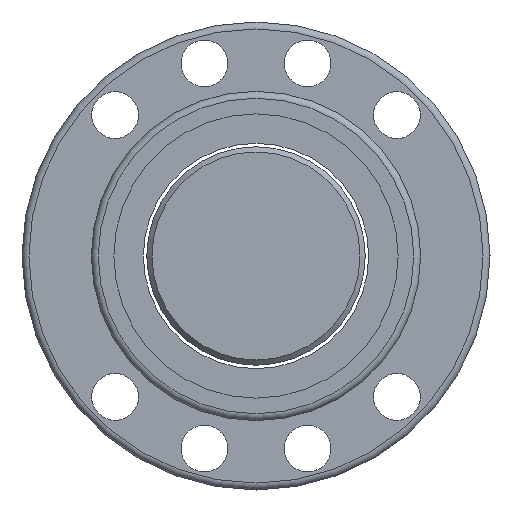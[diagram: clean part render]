
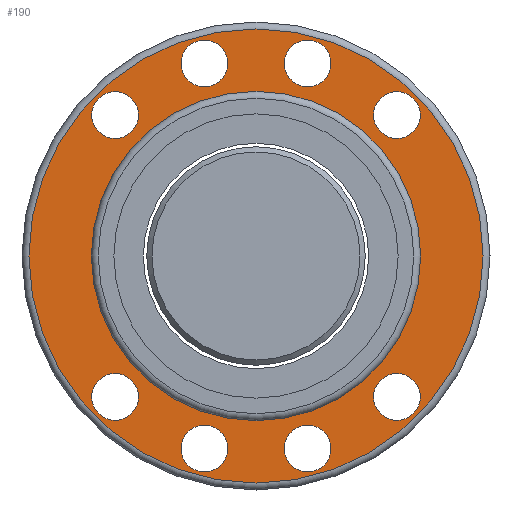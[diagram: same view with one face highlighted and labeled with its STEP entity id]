
A CAD part, left-side view. The second image highlights one B-rep face of the part: STEP entity #190.
In plain terms, the highlighted planar face has unit normal (-1, 0, 0).
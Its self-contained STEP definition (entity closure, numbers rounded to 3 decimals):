
#120=PLANE('',#740);
#137=FACE_OUTER_BOUND('',#366,.T.);
#190=ADVANCED_FACE('',(#255,#256,#257,#258,#259,#260,#261,#262,#263,#137),
#120,.T.);
#255=FACE_BOUND('',#357,.T.);
#256=FACE_BOUND('',#358,.T.);
#257=FACE_BOUND('',#359,.T.);
#258=FACE_BOUND('',#360,.T.);
#259=FACE_BOUND('',#361,.T.);
#260=FACE_BOUND('',#362,.T.);
#261=FACE_BOUND('',#363,.T.);
#262=FACE_BOUND('',#364,.T.);
#263=FACE_BOUND('',#365,.T.);
#357=EDGE_LOOP('',(#463));
#358=EDGE_LOOP('',(#464));
#359=EDGE_LOOP('',(#465));
#360=EDGE_LOOP('',(#466));
#361=EDGE_LOOP('',(#467));
#362=EDGE_LOOP('',(#468));
#363=EDGE_LOOP('',(#469));
#364=EDGE_LOOP('',(#470));
#365=EDGE_LOOP('',(#471));
#366=EDGE_LOOP('',(#472));
#463=ORIENTED_EDGE('',*,*,#596,.F.);
#464=ORIENTED_EDGE('',*,*,#597,.F.);
#465=ORIENTED_EDGE('',*,*,#598,.F.);
#466=ORIENTED_EDGE('',*,*,#599,.F.);
#467=ORIENTED_EDGE('',*,*,#600,.F.);
#468=ORIENTED_EDGE('',*,*,#601,.F.);
#469=ORIENTED_EDGE('',*,*,#602,.F.);
#470=ORIENTED_EDGE('',*,*,#603,.F.);
#471=ORIENTED_EDGE('',*,*,#604,.T.);
#472=ORIENTED_EDGE('',*,*,#605,.F.);
#543=VERTEX_POINT('',#1057);
#544=VERTEX_POINT('',#1059);
#545=VERTEX_POINT('',#1061);
#546=VERTEX_POINT('',#1063);
#547=VERTEX_POINT('',#1065);
#548=VERTEX_POINT('',#1067);
#549=VERTEX_POINT('',#1069);
#550=VERTEX_POINT('',#1071);
#551=VERTEX_POINT('',#1073);
#552=VERTEX_POINT('',#1075);
#596=EDGE_CURVE('',#543,#543,#649,.T.);
#597=EDGE_CURVE('',#544,#544,#650,.T.);
#598=EDGE_CURVE('',#545,#545,#651,.T.);
#599=EDGE_CURVE('',#546,#546,#652,.T.);
#600=EDGE_CURVE('',#547,#547,#653,.T.);
#601=EDGE_CURVE('',#548,#548,#654,.T.);
#602=EDGE_CURVE('',#549,#549,#655,.T.);
#603=EDGE_CURVE('',#550,#550,#656,.T.);
#604=EDGE_CURVE('',#551,#551,#657,.T.);
#605=EDGE_CURVE('',#552,#552,#658,.T.);
#649=CIRCLE('',#730,6.75);
#650=CIRCLE('',#731,6.75);
#651=CIRCLE('',#732,6.75);
#652=CIRCLE('',#733,6.75);
#653=CIRCLE('',#734,6.75);
#654=CIRCLE('',#735,6.75);
#655=CIRCLE('',#736,6.75);
#656=CIRCLE('',#737,6.75);
#657=CIRCLE('',#738,47.5);
#658=CIRCLE('',#739,65.5);
#730=AXIS2_PLACEMENT_3D('',#1056,#884,#885);
#731=AXIS2_PLACEMENT_3D('',#1058,#886,#887);
#732=AXIS2_PLACEMENT_3D('',#1060,#888,#889);
#733=AXIS2_PLACEMENT_3D('',#1062,#890,#891);
#734=AXIS2_PLACEMENT_3D('',#1064,#892,#893);
#735=AXIS2_PLACEMENT_3D('',#1066,#894,#895);
#736=AXIS2_PLACEMENT_3D('',#1068,#896,#897);
#737=AXIS2_PLACEMENT_3D('',#1070,#898,#899);
#738=AXIS2_PLACEMENT_3D('',#1072,#900,#901);
#739=AXIS2_PLACEMENT_3D('',#1074,#902,#903);
#740=AXIS2_PLACEMENT_3D('',#1076,#904,#905);
#884=DIRECTION('',(-1.,0.,0.));
#885=DIRECTION('',(0.,0.,1.));
#886=DIRECTION('',(-1.,0.,0.));
#887=DIRECTION('',(0.,0.,1.));
#888=DIRECTION('',(-1.,0.,0.));
#889=DIRECTION('',(0.,0.,1.));
#890=DIRECTION('',(-1.,0.,0.));
#891=DIRECTION('',(0.,0.,1.));
#892=DIRECTION('',(-1.,0.,0.));
#893=DIRECTION('',(0.,0.,1.));
#894=DIRECTION('',(-1.,0.,0.));
#895=DIRECTION('',(0.,0.,1.));
#896=DIRECTION('',(-1.,0.,0.));
#897=DIRECTION('',(0.,0.,1.));
#898=DIRECTION('',(-1.,0.,0.));
#899=DIRECTION('',(0.,0.,1.));
#900=DIRECTION('',(1.,0.,0.));
#901=DIRECTION('',(0.,0.,-1.));
#902=DIRECTION('',(1.,0.,0.));
#903=DIRECTION('',(0.,0.,-1.));
#904=DIRECTION('',(-1.,0.,0.));
#905=DIRECTION('',(0.,0.,1.));
#1056=CARTESIAN_POINT('',(-40.,40.66,-40.66));
#1057=CARTESIAN_POINT('',(-40.,40.66,-33.91));
#1058=CARTESIAN_POINT('',(-40.,14.883,-55.543));
#1059=CARTESIAN_POINT('',(-40.,14.883,-48.793));
#1060=CARTESIAN_POINT('',(-40.,-14.883,-55.543));
#1061=CARTESIAN_POINT('',(-40.,-14.883,-48.793));
#1062=CARTESIAN_POINT('',(-40.,-40.66,-40.66));
#1063=CARTESIAN_POINT('',(-40.,-40.66,-33.91));
#1064=CARTESIAN_POINT('',(-40.,-40.66,40.66));
#1065=CARTESIAN_POINT('',(-40.,-40.66,47.41));
#1066=CARTESIAN_POINT('',(-40.,-14.883,55.543));
#1067=CARTESIAN_POINT('',(-40.,-14.883,62.293));
#1068=CARTESIAN_POINT('',(-40.,14.883,55.543));
#1069=CARTESIAN_POINT('',(-40.,14.883,62.293));
#1070=CARTESIAN_POINT('',(-40.,40.66,40.66));
#1071=CARTESIAN_POINT('',(-40.,40.66,47.41));
#1072=CARTESIAN_POINT('',(-40.,0.,0.));
#1073=CARTESIAN_POINT('',(-40.,0.,-47.5));
#1074=CARTESIAN_POINT('',(-40.,0.,0.));
#1075=CARTESIAN_POINT('',(-40.,0.,-65.5));
#1076=CARTESIAN_POINT('',(-40.,56.5,0.));
